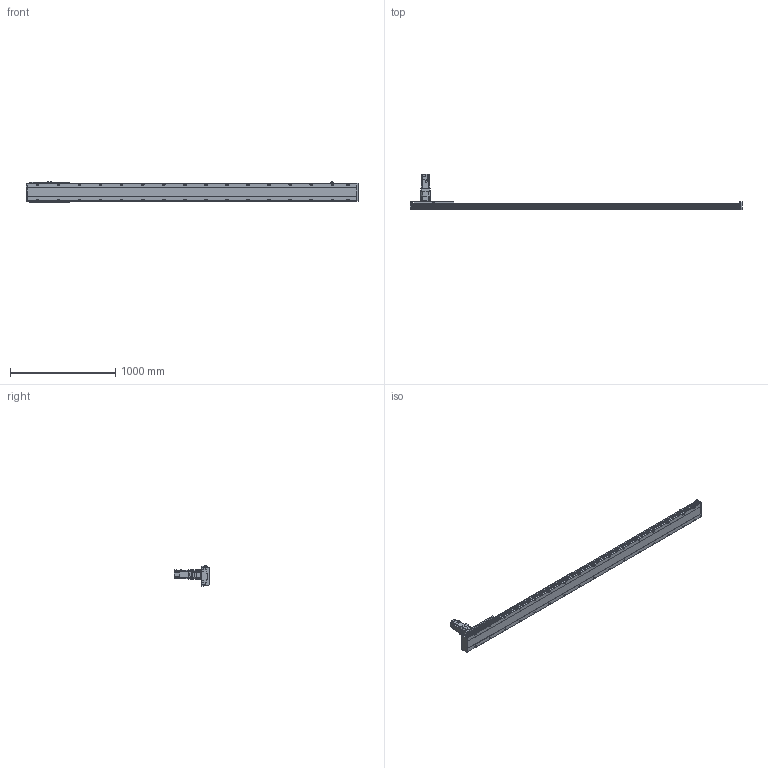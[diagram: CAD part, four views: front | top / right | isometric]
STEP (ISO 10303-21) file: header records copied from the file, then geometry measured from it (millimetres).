
FILE_DESCRIPTION(/* description */ ('STEP AP203'),/* implementation_level */ '2;1');
FILE_NAME(/* name */ 'SHS17A-L13-S2700-BC-T75-C1-N(0)',/* time_stamp */ '2023-03-27T08:58:19+02:00',/* author */ ('License CC BY-ND 4.0'),/* organization */ ('CADENAS'),/* preprocessor_version */ 'ST-DEVELOPER v19.3',/* originating_system */ 'PARTsolutions',/* authorisation */ ' ');
FILE_SCHEMA (('CONFIG_CONTROL_DESIGN'));
Length unit declared in the file: millimetre
Products named in the file (7): SHS17A-L13-S2700-BC-T75-C1-N(0); PSC140-sensor; SHS17A-S2700(0)_body2; T75-p1; SHS17A-S2700_body3; SHS17A-S2700-C1(0)_slider; SHS17A-S2700-C1(0)_body
Assembly tree (13 placements, depth 2):
  SHS17A-L13-S2700-BC-T75-C1-N(0)
    PSC140-sensor  x3
    SHS17A-S2700(0)_body2  x6
    T75-p1
    SHS17A-S2700_body3
    SHS17A-S2700-C1(0)_slider
    SHS17A-S2700-C1(0)_body
Bounding box: 3154 x 333.8 x 193.4 mm (x, y, z)
Volume: 22376893.2 mm3; surface area: 2593973 mm2
Topology: 13 solids, 13 shells, 2168 faces, 5511 edges, 3590 vertices
Faces by surface type: plane 1377, cylinder 702, cone 86, torus 3
Full cylindrical faces by diameter (mm): 2.8 x3, 4.134 x24, 4.5 x2, 4.6 x3, 4.917 x15, 5.5 x48, 6 x7, 6.5 x24, 6.647 x40, 6.8 x9, 8 x3, 8.5 x32, 10 x28, 11 x4, 14 x32, 22 x1, 24 x1, 24.2 x1, 28 x1, 28.2 x1, 28.8 x1, 29.8 x1, 48.542 x1, 68 x1, 70 x1, 78 x1, 80 x2
Entity records: 41780 total; most frequent: CARTESIAN_POINT 8168, DIRECTION 6823, ORIENTED_EDGE 6572, EDGE_CURVE 3286, AXIS2_PLACEMENT_3D 2410, VERTEX_POINT 2311, LINE 2003, VECTOR 2003
